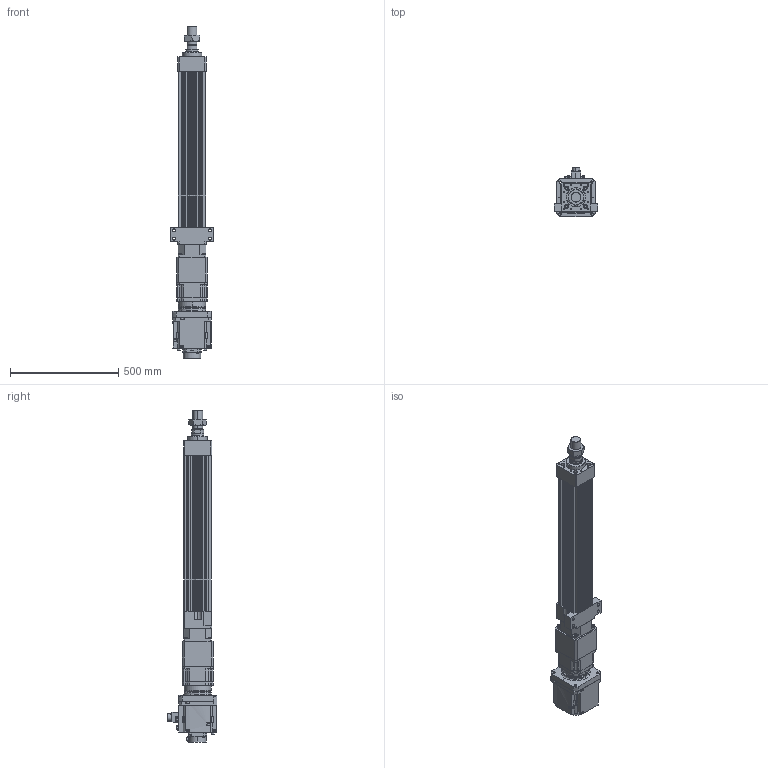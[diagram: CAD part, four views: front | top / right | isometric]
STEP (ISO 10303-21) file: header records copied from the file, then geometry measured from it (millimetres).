
FILE_DESCRIPTION (( 'STEP AP203' ), '1' );
FILE_NAME ('HES130NS(FS)(HS)-S500-W020G00-M-FFC.STEP', '2026-06-10T06:35:37', ( 'tms' ), ( '' ), 'SwSTEP 2.0', 'SolidWorks 2013', '' );
FILE_SCHEMA (( 'CONFIG_CONTROL_DESIGN' ));
Length unit declared in the file: millimetre
Products named in the file (9): M45X1.5P; HES130NS(FS)(HS)-S500-W020G00-M-FFC; HES130-M-ROD-500; HES130-S-G142; AB1421; AB1423; AB1422; HG-SR202B; HES130-FFC-500
Assembly tree (8 placements, depth 2):
  HES130NS(FS)(HS)-S500-W020G00-M-FFC
    HES130-FFC-500
    HES130-M-ROD-500
    M45X1.5P
    HES130-S-G142
    AB1421
    AB1422
    AB1423
    HG-SR202B
Bounding box: 200 x 228.85 x 1535 mm (x, y, z)
Volume: 14319742.8 mm3; surface area: 1745874.5 mm2
Topology: 5 solids, 19 shells, 1585 faces, 4100 edges, 2650 vertices
Faces by surface type: cylinder 710, plane 617, cone 176, bspline 76, torus 6
Entity records: 57272 total; most frequent: CARTESIAN_POINT 17113, DIRECTION 8420, ORIENTED_EDGE 8078, EDGE_CURVE 4061, AXIS2_PLACEMENT_3D 3174, VERTEX_POINT 2650, VECTOR 2072, LINE 2072
